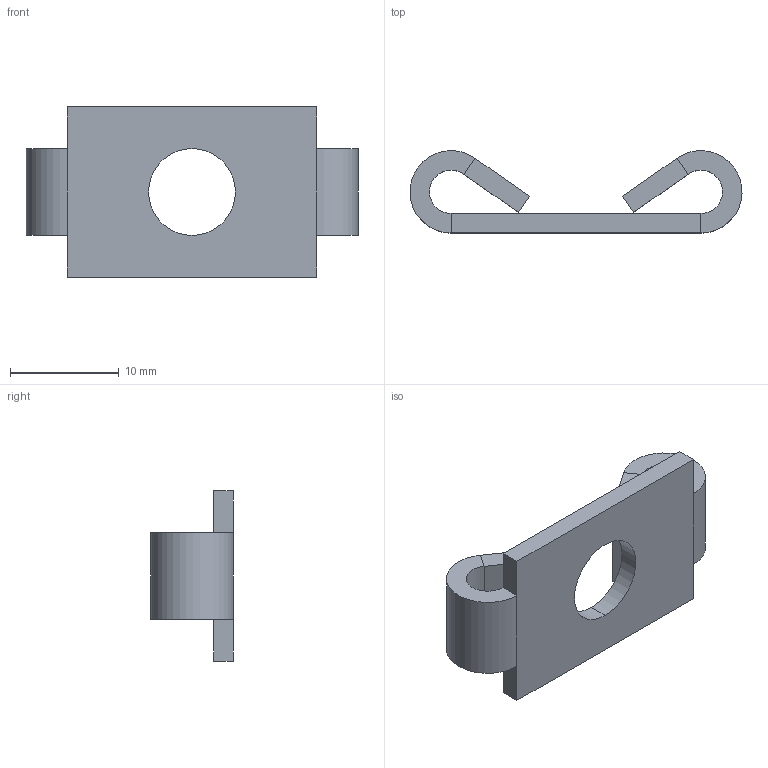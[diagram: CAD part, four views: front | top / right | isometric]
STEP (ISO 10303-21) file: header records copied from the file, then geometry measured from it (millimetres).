
FILE_DESCRIPTION (( 'STEP AP203' ), '1' );
FILE_NAME ('SJT8-3030.STEP', '2018-03-15T12:42:14', ( '' ), ( '' ), 'SwSTEP 2.0', 'SolidWorks 2013', '' );
FILE_SCHEMA (( 'CONFIG_CONTROL_DESIGN' ));
Length unit declared in the file: millimetre
Products named in the file (1): SJT8-3030
Bounding box: 30.6 x 7.59 x 15.7 mm (x, y, z)
Volume: 1049.8 mm3; surface area: 1473.6 mm2
Topology: 1 solids, 1 shells, 28 faces, 62 edges, 36 vertices
Faces by surface type: plane 22, cylinder 6
Entity records: 831 total; most frequent: DIRECTION 132, CARTESIAN_POINT 127, ORIENTED_EDGE 124, EDGE_CURVE 62, LINE 50, VECTOR 50, AXIS2_PLACEMENT_3D 41, VERTEX_POINT 36
